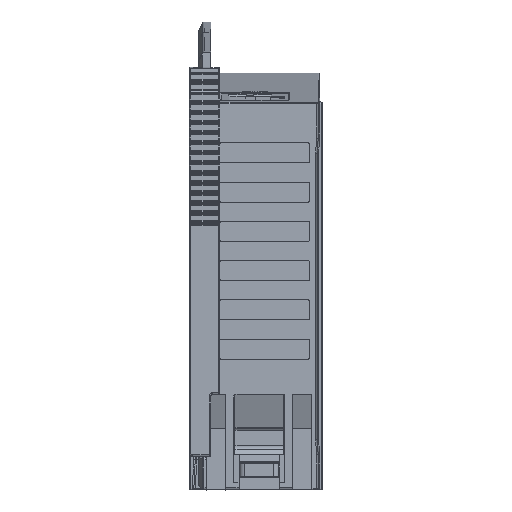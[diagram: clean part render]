
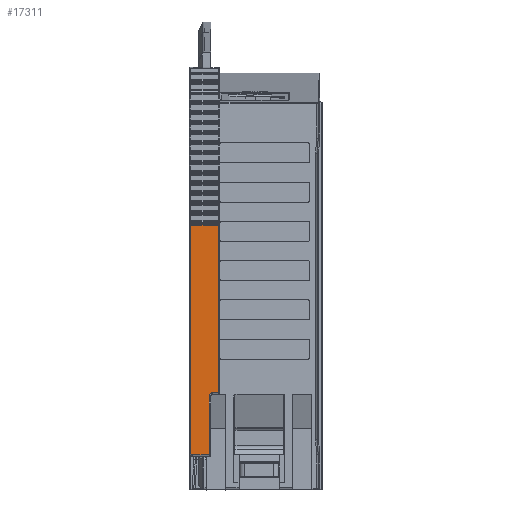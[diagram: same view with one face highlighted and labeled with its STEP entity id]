
A CAD part, front view. The second image highlights one B-rep face of the part: STEP entity #17311.
In plain terms, the highlighted planar face has unit normal (0, -1, 0).
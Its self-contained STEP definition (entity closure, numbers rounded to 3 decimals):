
#209 = ORIENTED_EDGE ( 'NONE', *, *, #63820, .T. ) ;
#210 = CARTESIAN_POINT ( 'NONE',  ( -13.6, -52.5, 125.518 ) ) ;
#621 = CARTESIAN_POINT ( 'NONE',  ( -13.5, -52.5, 125.518 ) ) ;
#905 = DIRECTION ( 'NONE',  ( 1., 0., 0. ) ) ;
#1596 = CARTESIAN_POINT ( 'NONE',  ( -13.5, -52.5, 13.7 ) ) ;
#1886 = CARTESIAN_POINT ( 'NONE',  ( -13.2, -52.5, 1.8 ) ) ;
#3241 = CARTESIAN_POINT ( 'NONE',  ( -9.9, -52.5, 13.1 ) ) ;
#3451 = VERTEX_POINT ( 'NONE', #3241 ) ;
#5024 = DIRECTION ( 'NONE',  ( 1., 0., 0. ) ) ;
#6734 = CARTESIAN_POINT ( 'NONE',  ( -9.3, -52.5, 13.1 ) ) ;
#7783 = CIRCLE ( 'NONE', #77560, 0.4 ) ;
#8946 = CARTESIAN_POINT ( 'NONE',  ( -8.1, -52.5, 46.995 ) ) ;
#9092 = ORIENTED_EDGE ( 'NONE', *, *, #81366, .T. ) ;
#9907 = LINE ( 'NONE', #1596, #79467 ) ;
#12334 = EDGE_CURVE ( 'NONE', #101969, #88806, #35962, .T. ) ;
#15293 = CARTESIAN_POINT ( 'NONE',  ( -9.9, -52.5, 13.1 ) ) ;
#15623 = AXIS2_PLACEMENT_3D ( 'NONE', #621, #35208, #58180 ) ;
#17311 = ADVANCED_FACE ( 'NONE', ( #49022 ), #98147, .F. ) ;
#17526 = DIRECTION ( 'NONE',  ( 0., 0., -1. ) ) ;
#20546 = DIRECTION ( 'NONE',  ( -1., 0., 0. ) ) ;
#21226 = CARTESIAN_POINT ( 'NONE',  ( -13.5, -52.5, 1.4 ) ) ;
#21415 = EDGE_CURVE ( 'NONE', #88806, #28950, #100839, .T. ) ;
#25010 = CIRCLE ( 'NONE', #51299, 0.6 ) ;
#27133 = VERTEX_POINT ( 'NONE', #57895 ) ;
#28318 = VECTOR ( 'NONE', #56162, 1000. ) ;
#28950 = VERTEX_POINT ( 'NONE', #86546 ) ;
#35208 = DIRECTION ( 'NONE',  ( 0., 1., 0. ) ) ;
#35962 = LINE ( 'NONE', #56876, #28318 ) ;
#38219 = DIRECTION ( 'NONE',  ( 0., 1., 0. ) ) ;
#43560 = EDGE_CURVE ( 'NONE', #99402, #101750, #7783, .T. ) ;
#45201 = CARTESIAN_POINT ( 'NONE',  ( -13.6, -52.5, 1.8 ) ) ;
#49022 = FACE_OUTER_BOUND ( 'NONE', #88596, .T. ) ;
#51299 = AXIS2_PLACEMENT_3D ( 'NONE', #6734, #38219, #71413 ) ;
#56162 = DIRECTION ( 'NONE',  ( 0., 0., 1. ) ) ;
#56876 = CARTESIAN_POINT ( 'NONE',  ( -8.1, -52.5, 125.518 ) ) ;
#57895 = CARTESIAN_POINT ( 'NONE',  ( -9.9, -52.5, 1.4 ) ) ;
#58180 = DIRECTION ( 'NONE',  ( -1., 0., 0. ) ) ;
#60253 = LINE ( 'NONE', #210, #64028 ) ;
#60998 = LINE ( 'NONE', #21226, #104078 ) ;
#61014 = VECTOR ( 'NONE', #87078, 1000. ) ;
#63820 = EDGE_CURVE ( 'NONE', #28950, #99402, #60253, .T. ) ;
#64028 = VECTOR ( 'NONE', #17526, 1000. ) ;
#64813 = DIRECTION ( 'NONE',  ( -1., 0., 0. ) ) ;
#64867 = VERTEX_POINT ( 'NONE', #69316 ) ;
#69316 = CARTESIAN_POINT ( 'NONE',  ( -9.3, -52.5, 13.7 ) ) ;
#70632 = CARTESIAN_POINT ( 'NONE',  ( -13.2, -52.5, 1.4 ) ) ;
#71413 = DIRECTION ( 'NONE',  ( -1., 0., 0. ) ) ;
#77374 = EDGE_CURVE ( 'NONE', #101750, #27133, #60998, .T. ) ;
#77560 = AXIS2_PLACEMENT_3D ( 'NONE', #1886, #98358, #64813 ) ;
#78001 = VECTOR ( 'NONE', #20546, 1000. ) ;
#79467 = VECTOR ( 'NONE', #905, 1000. ) ;
#81366 = EDGE_CURVE ( 'NONE', #64867, #101969, #9907, .T. ) ;
#81961 = EDGE_CURVE ( 'NONE', #3451, #64867, #25010, .T. ) ;
#86274 = ORIENTED_EDGE ( 'NONE', *, *, #21415, .T. ) ;
#86546 = CARTESIAN_POINT ( 'NONE',  ( -13.6, -52.5, 46.995 ) ) ;
#86774 = ORIENTED_EDGE ( 'NONE', *, *, #77374, .T. ) ;
#87078 = DIRECTION ( 'NONE',  ( 0., 0., 1. ) ) ;
#88596 = EDGE_LOOP ( 'NONE', ( #99564, #86274, #209, #104027, #86774, #99738, #104757, #9092 ) ) ;
#88806 = VERTEX_POINT ( 'NONE', #8946 ) ;
#93379 = CARTESIAN_POINT ( 'NONE',  ( -13.5, -52.5, 46.995 ) ) ;
#95813 = EDGE_CURVE ( 'NONE', #27133, #3451, #102871, .T. ) ;
#98122 = CARTESIAN_POINT ( 'NONE',  ( -8.1, -52.5, 13.7 ) ) ;
#98147 = PLANE ( 'NONE',  #15623 ) ;
#98358 = DIRECTION ( 'NONE',  ( 0., -1., 0. ) ) ;
#99402 = VERTEX_POINT ( 'NONE', #45201 ) ;
#99564 = ORIENTED_EDGE ( 'NONE', *, *, #12334, .T. ) ;
#99738 = ORIENTED_EDGE ( 'NONE', *, *, #95813, .T. ) ;
#100839 = LINE ( 'NONE', #93379, #78001 ) ;
#101750 = VERTEX_POINT ( 'NONE', #70632 ) ;
#101969 = VERTEX_POINT ( 'NONE', #98122 ) ;
#102871 = LINE ( 'NONE', #15293, #61014 ) ;
#104027 = ORIENTED_EDGE ( 'NONE', *, *, #43560, .T. ) ;
#104078 = VECTOR ( 'NONE', #5024, 1000. ) ;
#104757 = ORIENTED_EDGE ( 'NONE', *, *, #81961, .T. ) ;
